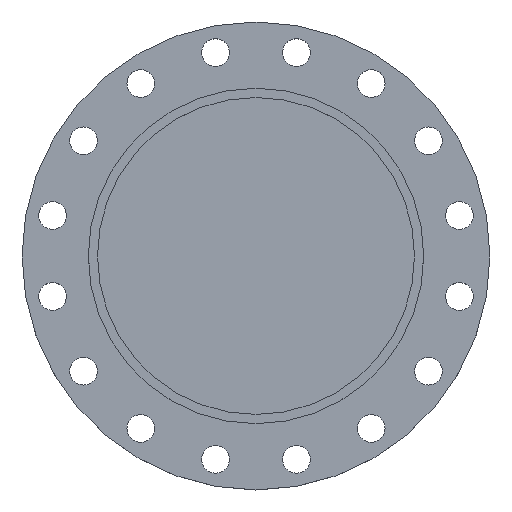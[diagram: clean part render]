
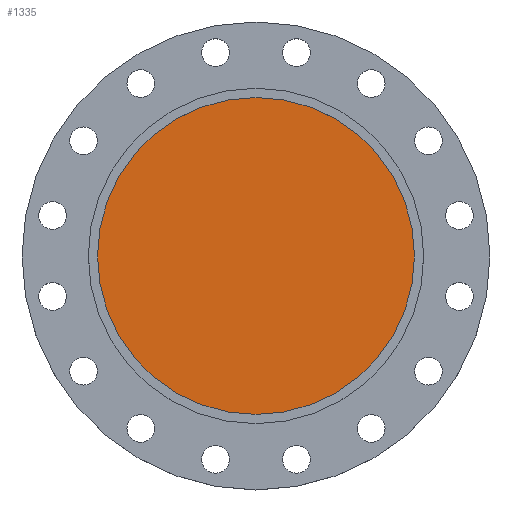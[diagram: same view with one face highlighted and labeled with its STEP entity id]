
A CAD part, top view. The second image highlights one B-rep face of the part: STEP entity #1335.
In plain terms, the highlighted planar face has unit normal (0, 0, 1).
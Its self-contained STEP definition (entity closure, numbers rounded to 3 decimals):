
#65 = CIRCLE ( 'NONE', #1036, 223.5 ) ;
#94 = DIRECTION ( 'NONE',  ( 0., 0., -1. ) ) ;
#192 = EDGE_CURVE ( 'NONE', #1288, #1131, #1350, .T. ) ;
#261 = AXIS2_PLACEMENT_3D ( 'NONE', #1011, #1400, #368 ) ;
#368 = DIRECTION ( 'NONE',  ( 1., 0., 0. ) ) ;
#462 = DIRECTION ( 'NONE',  ( -1., 0., 0. ) ) ;
#463 = DIRECTION ( 'NONE',  ( 0., 0., -1. ) ) ;
#464 = CARTESIAN_POINT ( 'NONE',  ( 0., 0., -5.5 ) ) ;
#469 = AXIS2_PLACEMENT_3D ( 'NONE', #464, #463, #462 ) ;
#548 = PLANE ( 'NONE',  #261 ) ;
#783 = DIRECTION ( 'NONE',  ( -1., 0., 0. ) ) ;
#1010 = ORIENTED_EDGE ( 'NONE', *, *, #1415, .F. ) ;
#1011 = CARTESIAN_POINT ( 'NONE',  ( 223.5, 0., -5.5 ) ) ;
#1014 = ORIENTED_EDGE ( 'NONE', *, *, #192, .F. ) ;
#1036 = AXIS2_PLACEMENT_3D ( 'NONE', #1322, #94, #783 ) ;
#1047 = EDGE_LOOP ( 'NONE', ( #1010, #1014 ) ) ;
#1130 = CARTESIAN_POINT ( 'NONE',  ( 223.5, 0., -5.5 ) ) ;
#1131 = VERTEX_POINT ( 'NONE', #1183 ) ;
#1183 = CARTESIAN_POINT ( 'NONE',  ( -223.5, 0., -5.5 ) ) ;
#1288 = VERTEX_POINT ( 'NONE', #1130 ) ;
#1322 = CARTESIAN_POINT ( 'NONE',  ( 0., 0., -5.5 ) ) ;
#1335 = ADVANCED_FACE ( 'NONE', ( #1450 ), #548, .T. ) ;
#1350 = CIRCLE ( 'NONE', #469, 223.5 ) ;
#1400 = DIRECTION ( 'NONE',  ( 0., 0., 1. ) ) ;
#1415 = EDGE_CURVE ( 'NONE', #1131, #1288, #65, .T. ) ;
#1450 = FACE_OUTER_BOUND ( 'NONE', #1047, .T. ) ;
